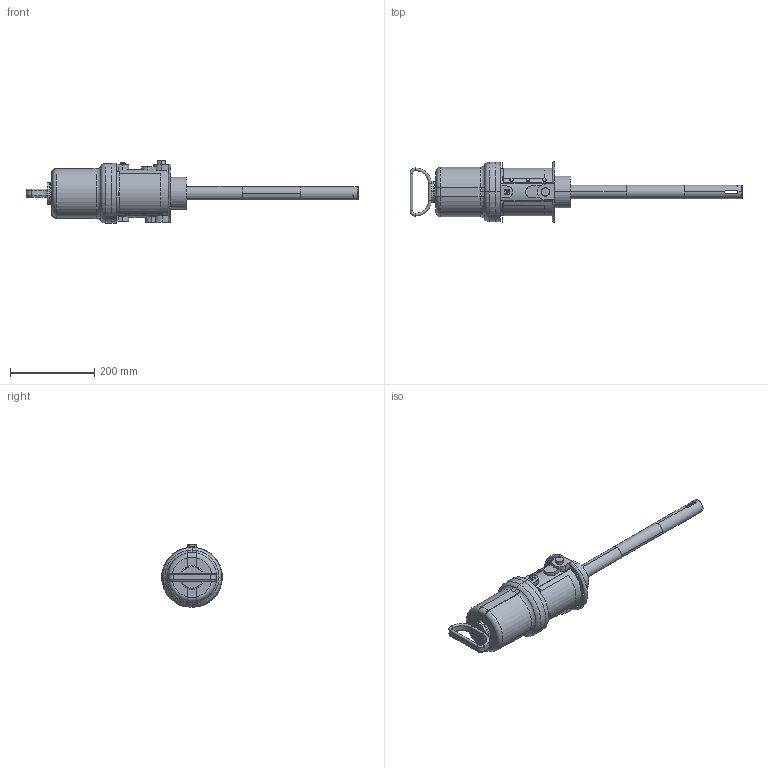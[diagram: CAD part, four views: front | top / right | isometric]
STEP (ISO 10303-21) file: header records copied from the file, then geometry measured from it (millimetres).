
FILE_DESCRIPTION((''),'2;1');
FILE_NAME('239877-EN-ZAB_PRT','2024-05-23T11:50:57',('qtmwp1'),(''),'CREO PARAMETRIC BY PTC INC, 2023424','CREO PARAMETRIC BY PTC INC, 2023424','');
FILE_SCHEMA(('CONFIG_CONTROL_DESIGN'));
Length unit declared in the file: inch
Products named in the file (1): 239877-EN-ZAB_PRT
Bounding box: 787.96 x 143.76 x 147.83 mm (x, y, z)
Surface area: 266028 mm2 (no closed solid volume)
Topology: 0 solids, 38 shells, 266 faces, 802 edges, 546 vertices
Faces by surface type: plane 99, cylinder 91, cone 46, torus 26, bspline 4
Entity records: 9865 total; most frequent: CARTESIAN_POINT 3071, DIRECTION 1364, ORIENTED_EDGE 1302, EDGE_CURVE 802, VERTEX_POINT 546, AXIS2_PLACEMENT_3D 516, VECTOR 332, LINE 332
